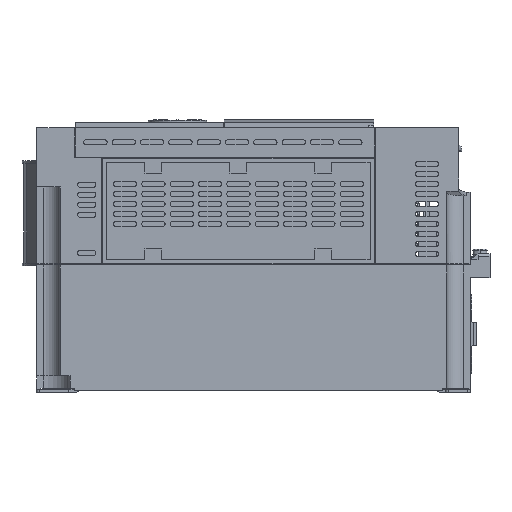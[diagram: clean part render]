
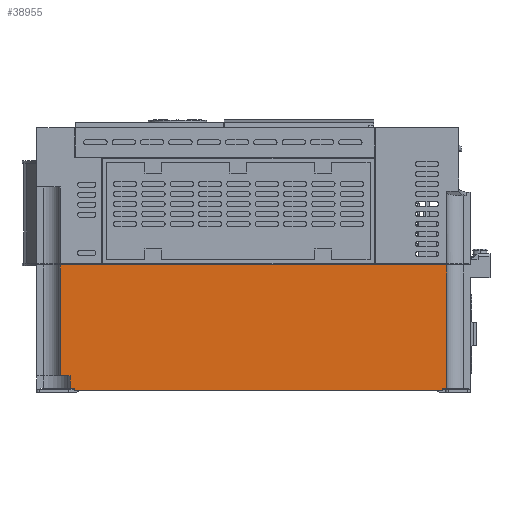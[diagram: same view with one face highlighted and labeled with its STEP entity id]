
A CAD part, left-side view. The second image highlights one B-rep face of the part: STEP entity #38955.
In plain terms, the highlighted planar face has unit normal (-1, 0, 0).
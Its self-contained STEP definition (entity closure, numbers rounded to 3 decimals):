
#1304=DIRECTION('',(0.,0.,-1.));
#1305=VECTOR('',#1304,66.5);
#1306=CARTESIAN_POINT('',(0.,-14.,76.5));
#1307=LINE('',#1306,#1305);
#1312=DIRECTION('',(0.,-1.,0.));
#1313=VECTOR('',#1312,232.);
#1314=CARTESIAN_POINT('',(0.,-14.,76.5));
#1315=LINE('',#1314,#1313);
#1316=DIRECTION('',(0.,1.,0.));
#1317=VECTOR('',#1316,2.5);
#1318=CARTESIAN_POINT('',(0.,-246.,2.5));
#1319=LINE('',#1318,#1317);
#1320=DIRECTION('',(0.,0.,-1.));
#1321=VECTOR('',#1320,1.5);
#1322=CARTESIAN_POINT('',(0.,-243.5,2.5));
#1323=LINE('',#1322,#1321);
#1324=DIRECTION('',(0.,1.,0.));
#1325=VECTOR('',#1324,221.);
#1326=CARTESIAN_POINT('',(0.,-243.5,1.));
#1327=LINE('',#1326,#1325);
#1328=DIRECTION('',(0.,0.,1.));
#1329=VECTOR('',#1328,1.5);
#1330=CARTESIAN_POINT('',(0.,-22.5,1.));
#1331=LINE('',#1330,#1329);
#1332=DIRECTION('',(0.,1.,0.));
#1333=VECTOR('',#1332,2.5);
#1334=CARTESIAN_POINT('',(0.,-22.5,2.5));
#1335=LINE('',#1334,#1333);
#1344=DIRECTION('',(0.,0.,-1.));
#1345=VECTOR('',#1344,74.);
#1346=CARTESIAN_POINT('',(0.,-246.,76.5));
#1347=LINE('',#1346,#1345);
#5482=DIRECTION('',(0.,1.,0.));
#5483=VECTOR('',#5482,6.);
#5484=CARTESIAN_POINT('',(0.,-20.,10.));
#5485=LINE('',#5484,#5483);
#5499=DIRECTION('',(0.,0.,-1.));
#5500=VECTOR('',#5499,7.5);
#5501=CARTESIAN_POINT('',(0.,-20.,10.));
#5502=LINE('',#5501,#5500);
#31201=CARTESIAN_POINT('',(0.,-22.5,2.5));
#31202=VERTEX_POINT('',#31201);
#31203=CARTESIAN_POINT('',(0.,-20.,2.5));
#31204=VERTEX_POINT('',#31203);
#31285=CARTESIAN_POINT('',(0.,-246.,76.5));
#31286=VERTEX_POINT('',#31285);
#31287=CARTESIAN_POINT('',(0.,-14.,76.5));
#31288=VERTEX_POINT('',#31287);
#31731=CARTESIAN_POINT('',(0.,-243.5,2.5));
#31732=VERTEX_POINT('',#31731);
#31735=CARTESIAN_POINT('',(0.,-246.,2.5));
#31736=VERTEX_POINT('',#31735);
#31737=CARTESIAN_POINT('',(0.,-243.5,1.));
#31738=VERTEX_POINT('',#31737);
#31739=CARTESIAN_POINT('',(0.,-22.5,1.));
#31740=VERTEX_POINT('',#31739);
#31741=CARTESIAN_POINT('',(0.,-20.,10.));
#31742=VERTEX_POINT('',#31741);
#31743=CARTESIAN_POINT('',(0.,-14.,10.));
#31744=VERTEX_POINT('',#31743);
#38930=CARTESIAN_POINT('',(0.,-130.,38.75));
#38931=DIRECTION('',(1.,0.,0.));
#38932=DIRECTION('',(0.,-1.,0.));
#38933=AXIS2_PLACEMENT_3D('',#38930,#38931,#38932);
#38934=PLANE('',#38933);
#38935=ORIENTED_EDGE('',*,*,#38058,.T.);
#38937=ORIENTED_EDGE('',*,*,#38936,.T.);
#38939=ORIENTED_EDGE('',*,*,#38938,.T.);
#38941=ORIENTED_EDGE('',*,*,#38940,.T.);
#38943=ORIENTED_EDGE('',*,*,#38942,.T.);
#38945=ORIENTED_EDGE('',*,*,#38944,.T.);
#38947=ORIENTED_EDGE('',*,*,#38946,.T.);
#38949=ORIENTED_EDGE('',*,*,#38948,.F.);
#38951=ORIENTED_EDGE('',*,*,#38950,.T.);
#38952=ORIENTED_EDGE('',*,*,#38922,.F.);
#38953=EDGE_LOOP('',(#38935,#38937,#38939,#38941,#38943,#38945,#38947,#38949,
#38951,#38952));
#38954=FACE_OUTER_BOUND('',#38953,.F.);
#38955=ADVANCED_FACE('',(#38954),#38934,.F.);
#38058=EDGE_CURVE('',#31288,#31286,#1315,.T.);
#38922=EDGE_CURVE('',#31288,#31744,#1307,.T.);
#38936=EDGE_CURVE('',#31286,#31736,#1347,.T.);
#38938=EDGE_CURVE('',#31736,#31732,#1319,.T.);
#38940=EDGE_CURVE('',#31732,#31738,#1323,.T.);
#38942=EDGE_CURVE('',#31738,#31740,#1327,.T.);
#38944=EDGE_CURVE('',#31740,#31202,#1331,.T.);
#38946=EDGE_CURVE('',#31202,#31204,#1335,.T.);
#38948=EDGE_CURVE('',#31742,#31204,#5502,.T.);
#38950=EDGE_CURVE('',#31742,#31744,#5485,.T.);
